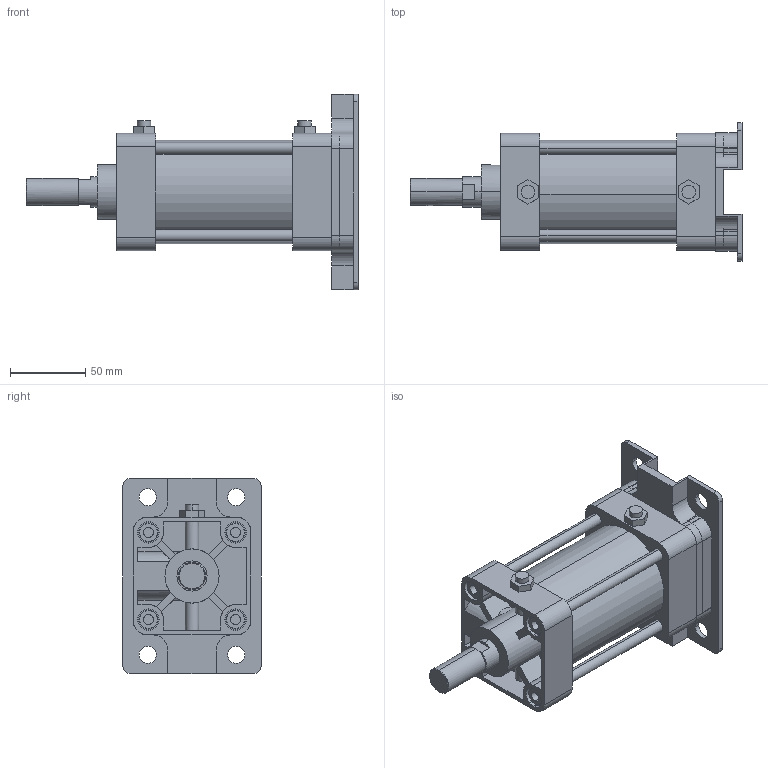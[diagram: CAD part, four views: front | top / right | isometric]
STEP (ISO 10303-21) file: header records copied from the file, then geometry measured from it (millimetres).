
FILE_DESCRIPTION (( 'STEP AP203' ), '1' );
FILE_NAME ('KG2-63-50-B.STEP', '2016-04-01T08:14:57', ( '' ), ( '' ), 'SwSTEP 2.0', 'SolidWorks 2014', '' );
FILE_SCHEMA (( 'CONFIG_CONTROL_DESIGN' ));
Length unit declared in the file: millimetre
Products named in the file (7): KG2-63-50-B; KG2-63-After; K-63-AB; KGLH2-63-50
Assembly tree (16 placements, depth 2):
  KG2-63-50-B
    KG2-63-After
    KGLH2-63-50
    (unnamed)
    (unnamed)  x4
    (unnamed)  x8
    K-63-AB
Bounding box: 221 x 92 x 130 mm (x, y, z)
Volume: 652262.8 mm3; surface area: 151697.9 mm2
Topology: 16 solids, 16 shells, 383 faces, 944 edges, 608 vertices
Faces by surface type: plane 167, cylinder 158, torus 32, cone 26
Entity records: 10222 total; most frequent: CARTESIAN_POINT 1787, DIRECTION 1628, ORIENTED_EDGE 1508, EDGE_CURVE 754, AXIS2_PLACEMENT_3D 594, VERTEX_POINT 498, VECTOR 440, LINE 440
